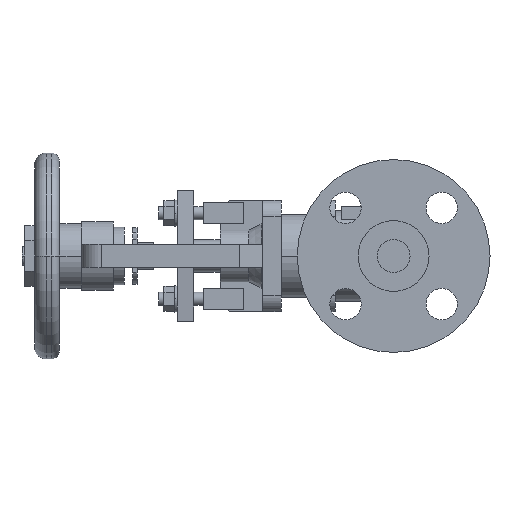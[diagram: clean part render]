
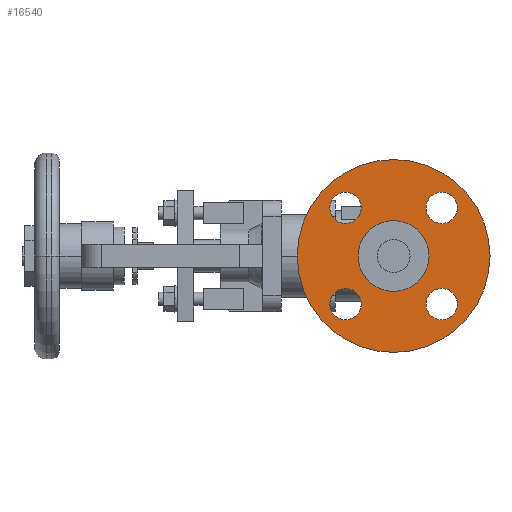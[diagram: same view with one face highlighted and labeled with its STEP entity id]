
A CAD part, left-side view. The second image highlights one B-rep face of the part: STEP entity #16540.
In plain terms, the highlighted planar face has unit normal (-1, 0, 0).
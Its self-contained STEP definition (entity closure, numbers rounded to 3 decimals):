
#4080=CARTESIAN_POINT('',(1.6,0.,-58.5));
#4090=VERTEX_POINT('',#4080);
#4250=CARTESIAN_POINT('',(1.6,0.,58.5));
#4260=VERTEX_POINT('',#4250);
#4290=CARTESIAN_POINT('',(1.6,0.,0.));
#4300=DIRECTION('',(1.,0.,0.));
#4310=DIRECTION('',(0.,0.,-1.));
#4320=AXIS2_PLACEMENT_3D('',#4290,#4300,#4310);
#4330=CIRCLE('',#4320,58.5);
#4340=CARTESIAN_POINT('',(1.6,58.5,0.));
#4350=VERTEX_POINT('',#4340);
#4360=EDGE_CURVE('',#4350,#4260,#4330,.T.);
#4380=EDGE_CURVE('',#4090,#4350,#4330,.T.);
#4610=CARTESIAN_POINT('',(1.6,29.168,
-19.668));
#4620=VERTEX_POINT('',#4610);
#4780=CARTESIAN_POINT('',(1.6,29.168,
-38.668));
#4790=VERTEX_POINT('',#4780);
#4820=CARTESIAN_POINT('',(1.6,29.168,
-29.168));
#4830=DIRECTION('',(-1.,0.,0.));
#4840=DIRECTION('',(0.,0.,-1.));
#4850=AXIS2_PLACEMENT_3D('',#4820,#4830,#4840);
#4860=CIRCLE('',#4850,9.5);
#4870=EDGE_CURVE('',#4620,#4790,#4860,.T.);
#5100=CARTESIAN_POINT('',(1.6,-29.168,
-19.668));
#5110=VERTEX_POINT('',#5100);
#5270=CARTESIAN_POINT('',(1.6,-29.168,
-38.668));
#5280=VERTEX_POINT('',#5270);
#5310=CARTESIAN_POINT('',(1.6,-29.168,
-29.168));
#5320=DIRECTION('',(-1.,0.,0.));
#5330=DIRECTION('',(0.,0.,-1.));
#5340=AXIS2_PLACEMENT_3D('',#5310,#5320,#5330);
#5350=CIRCLE('',#5340,9.5);
#5360=EDGE_CURVE('',#5110,#5280,#5350,.T.);
#5590=CARTESIAN_POINT('',(1.6,29.168,
19.668));
#5600=VERTEX_POINT('',#5590);
#5630=CARTESIAN_POINT('',(1.6,29.168,
29.168));
#5640=DIRECTION('',(-1.,0.,0.));
#5650=DIRECTION('',(0.,0.,-1.));
#5660=AXIS2_PLACEMENT_3D('',#5630,#5640,#5650);
#5670=CIRCLE('',#5660,9.5);
#5680=CARTESIAN_POINT('',(1.6,29.168,
38.668));
#5690=VERTEX_POINT('',#5680);
#5700=EDGE_CURVE('',#5690,#5600,#5670,.T.);
#6080=CARTESIAN_POINT('',(1.6,-29.168,
19.668));
#6090=VERTEX_POINT('',#6080);
#6250=CARTESIAN_POINT('',(1.6,-29.168,
38.668));
#6260=VERTEX_POINT('',#6250);
#6290=CARTESIAN_POINT('',(1.6,-29.168,
29.168));
#6300=DIRECTION('',(-1.,0.,0.));
#6310=DIRECTION('',(0.,0.,-1.));
#6320=AXIS2_PLACEMENT_3D('',#6290,#6300,#6310);
#6330=CIRCLE('',#6320,9.5);
#6340=EDGE_CURVE('',#6090,#6260,#6330,.T.);
#6570=CARTESIAN_POINT('',(1.6,21.5,0.));
#6580=VERTEX_POINT('',#6570);
#6610=CARTESIAN_POINT('',(1.6,0.,0.));
#6620=DIRECTION('',(-1.,0.,0.));
#6630=DIRECTION('',(0.,1.,0.));
#6640=AXIS2_PLACEMENT_3D('',#6610,#6620,#6630);
#6650=CIRCLE('',#6640,21.5);
#6660=CARTESIAN_POINT('',(1.6,-21.5,0.));
#6670=VERTEX_POINT('',#6660);
#6680=EDGE_CURVE('',#6670,#6580,#6650,.T.);
#16180=CARTESIAN_POINT('',(1.6,40.,0.));
#16190=DIRECTION('',(1.,0.,0.));
#16200=DIRECTION('',(0.,-1.,0.));
#16210=AXIS2_PLACEMENT_3D('',#16180,#16190,#16200);
#16220=PLANE('',#16210);
#16230=ORIENTED_EDGE('',*,*,#6680,.F.);
#16240=EDGE_CURVE('',#6580,#6670,#6650,.T.);
#16250=ORIENTED_EDGE('',*,*,#16240,.F.);
#16260=EDGE_LOOP('',(#16250,#16230));
#16270=FACE_BOUND('',#16260,.T.);
#16280=ORIENTED_EDGE('',*,*,#4360,.F.);
#16290=EDGE_CURVE('',#4260,#4090,#4330,.T.);
#16300=ORIENTED_EDGE('',*,*,#16290,.F.);
#16310=ORIENTED_EDGE('',*,*,#4380,.F.);
#16320=EDGE_LOOP('',(#16310,#16300,#16280));
#16330=FACE_OUTER_BOUND('',#16320,.T.);
#16340=EDGE_CURVE('',#4790,#4620,#4860,.T.);
#16350=ORIENTED_EDGE('',*,*,#16340,.F.);
#16360=ORIENTED_EDGE('',*,*,#4870,.F.);
#16370=EDGE_LOOP('',(#16360,#16350));
#16380=FACE_BOUND('',#16370,.T.);
#16390=EDGE_CURVE('',#5280,#5110,#5350,.T.);
#16400=ORIENTED_EDGE('',*,*,#16390,.F.);
#16410=ORIENTED_EDGE('',*,*,#5360,.F.);
#16420=EDGE_LOOP('',(#16410,#16400));
#16430=FACE_BOUND('',#16420,.T.);
#16440=ORIENTED_EDGE('',*,*,#5700,.F.);
#16450=EDGE_CURVE('',#5600,#5690,#5670,.T.);
#16460=ORIENTED_EDGE('',*,*,#16450,.F.);
#16470=EDGE_LOOP('',(#16460,#16440));
#16480=FACE_BOUND('',#16470,.T.);
#16490=EDGE_CURVE('',#6260,#6090,#6330,.T.);
#16500=ORIENTED_EDGE('',*,*,#16490,.F.);
#16510=ORIENTED_EDGE('',*,*,#6340,.F.);
#16520=EDGE_LOOP('',(#16510,#16500));
#16530=FACE_BOUND('',#16520,.T.);
#16540=ADVANCED_FACE('',(#16270,#16330,#16380,#16430,#16480,#16530),
#16220,.F.);
